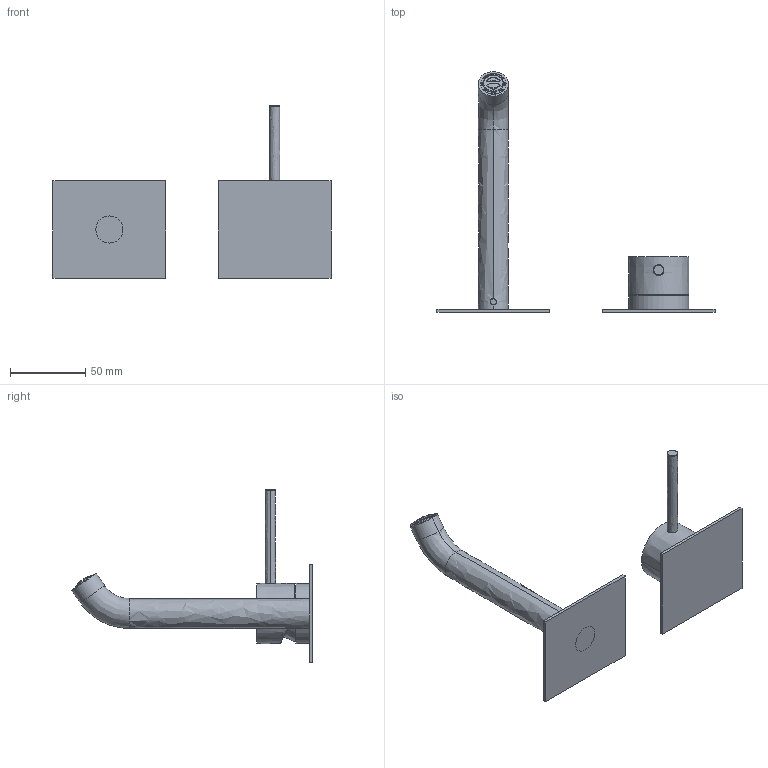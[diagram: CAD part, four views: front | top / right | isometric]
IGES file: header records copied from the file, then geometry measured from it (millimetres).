
Start section:  PTC IGES file: 69547b.igs
Global section: file name: 69547b.igs; native system: Creo Parametric by PTC Inc.; preprocessor: 2022014; author: carloff; organization: Unknown; date: 20251119.104328; units: millimetre
Bounding box: 185 x 160.19 x 114.9 mm (x, y, z)
Surface area: 52376.7 mm2 (no closed solid volume)
Topology: 0 solids, 0 shells, 1690 faces, 10024 edges, 10018 vertices
Faces by surface type: bspline 1419, revolution 268, extrusion 3
